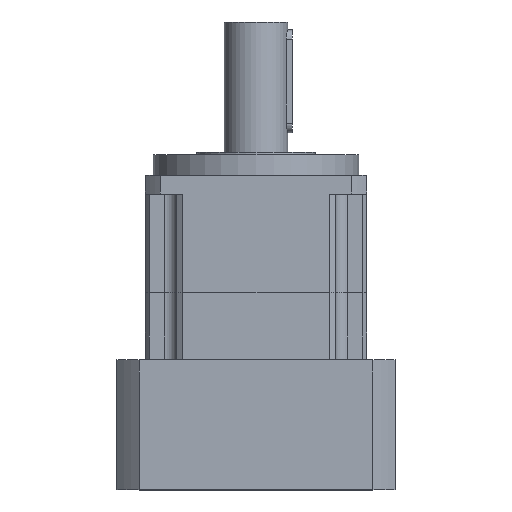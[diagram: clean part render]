
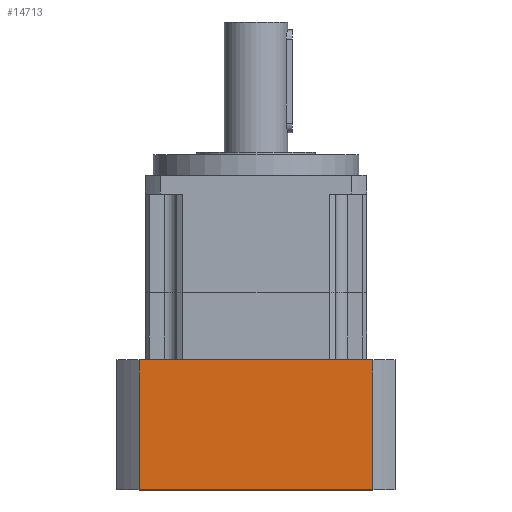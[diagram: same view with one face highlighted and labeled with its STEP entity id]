
A CAD part, top view. The second image highlights one B-rep face of the part: STEP entity #14713.
In plain terms, the highlighted planar face has unit normal (0, 0, 1) as drawn and (0, -1, 0) by its records, which use the part's own axes.
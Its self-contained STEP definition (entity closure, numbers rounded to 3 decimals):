
#1221 = CARTESIAN_POINT ( 'NONE',  ( 296., -88., -74.034 ) ) ;
#1305 = LINE ( 'NONE', #35123, #25840 ) ;
#6873 = CARTESIAN_POINT ( 'NONE',  ( 296., -88., 0. ) ) ;
#9510 = ORIENTED_EDGE ( 'NONE', *, *, #40177, .T. ) ;
#10049 = LINE ( 'NONE', #1221, #41060 ) ;
#10111 = CARTESIAN_POINT ( 'NONE',  ( 296., -88., -74.034 ) ) ;
#10883 = DIRECTION ( 'NONE',  ( 1., 0., 0. ) ) ;
#11864 = LINE ( 'NONE', #6873, #27914 ) ;
#12912 = EDGE_CURVE ( 'NONE', #37897, #28686, #21503, .T. ) ;
#13495 = AXIS2_PLACEMENT_3D ( 'NONE', #15779, #41349, #22210 ) ;
#14713 = ADVANCED_FACE ( 'NONE', ( #23221 ), #18997, .T. ) ;
#15375 = VERTEX_POINT ( 'NONE', #10111 ) ;
#15779 = CARTESIAN_POINT ( 'NONE',  ( 296., -88., -88. ) ) ;
#17870 = EDGE_CURVE ( 'NONE', #35305, #15375, #10049, .T. ) ;
#18997 = PLANE ( 'NONE',  #13495 ) ;
#19776 = DIRECTION ( 'NONE',  ( 0., 0., 1. ) ) ;
#19927 = ORIENTED_EDGE ( 'NONE', *, *, #12912, .F. ) ;
#20275 = ORIENTED_EDGE ( 'NONE', *, *, #17870, .T. ) ;
#20329 = DIRECTION ( 'NONE',  ( 1., 0., 0. ) ) ;
#21503 = LINE ( 'NONE', #32930, #38467 ) ;
#22210 = DIRECTION ( 'NONE',  ( 0., 0., -1. ) ) ;
#22406 = DIRECTION ( 'NONE',  ( 0., 0., -1. ) ) ;
#23221 = FACE_OUTER_BOUND ( 'NONE', #38978, .T. ) ;
#25840 = VECTOR ( 'NONE', #22406, 1000. ) ;
#27508 = CARTESIAN_POINT ( 'NONE',  ( 214., -88., 74.034 ) ) ;
#27914 = VECTOR ( 'NONE', #19776, 1000. ) ;
#28686 = VERTEX_POINT ( 'NONE', #37013 ) ;
#31050 = CARTESIAN_POINT ( 'NONE',  ( 214., -88., -74.034 ) ) ;
#32930 = CARTESIAN_POINT ( 'NONE',  ( 214., -88., 74.034 ) ) ;
#35123 = CARTESIAN_POINT ( 'NONE',  ( 214., -88., -88. ) ) ;
#35305 = VERTEX_POINT ( 'NONE', #31050 ) ;
#37013 = CARTESIAN_POINT ( 'NONE',  ( 296., -88., 74.034 ) ) ;
#37897 = VERTEX_POINT ( 'NONE', #27508 ) ;
#38467 = VECTOR ( 'NONE', #20329, 1000. ) ;
#38493 = ORIENTED_EDGE ( 'NONE', *, *, #39496, .T. ) ;
#38978 = EDGE_LOOP ( 'NONE', ( #19927, #9510, #20275, #38493 ) ) ;
#39496 = EDGE_CURVE ( 'NONE', #15375, #28686, #11864, .T. ) ;
#40177 = EDGE_CURVE ( 'NONE', #37897, #35305, #1305, .T. ) ;
#41060 = VECTOR ( 'NONE', #10883, 1000. ) ;
#41349 = DIRECTION ( 'NONE',  ( 0., -1., 0. ) ) ;
